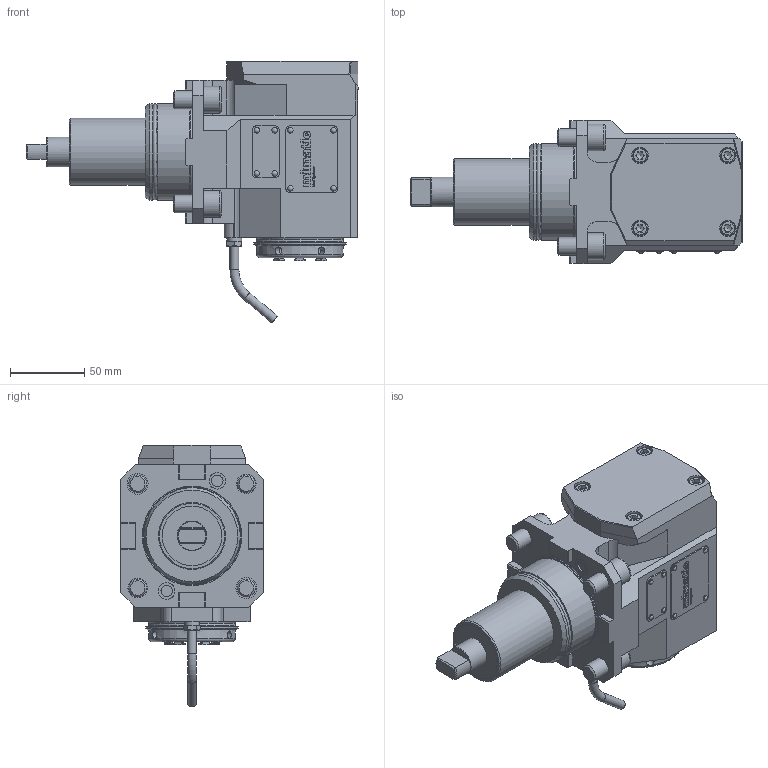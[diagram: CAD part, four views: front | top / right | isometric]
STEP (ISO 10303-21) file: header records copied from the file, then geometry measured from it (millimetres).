
FILE_DESCRIPTION(/* description */ (''),/* implementation_level */ '2;1');
FILE_NAME(/* name */ '192965',/* time_stamp */ '2020-05-25T15:59:23+02:00',/* author */ (''),/* organization */ (''),/* preprocessor_version */ 'ST-DEVELOPER v16.5',/* originating_system */ 'HiCAD 2017 2201.0 Build 268',/* authorisation */ '');
FILE_SCHEMA (('AUTOMOTIVE_DESIGN { 1 0 10303 214 1 1 1 1 }'));
Products named in the file (9): Root; Teil; GEWINDE; DIN 13-M14
Assembly tree (8 placements, depth 3):
  Root
    Teil
      GEWINDE
      GEWINDE
      GEWINDE
      GEWINDE
      GEWINDE
      DIN 13-M14
      DIN 13-M14
Bounding box: 223 x 96 x 175.85 mm (x, y, z)
Volume: 1131984.9 mm3; surface area: 110823.5 mm2
Topology: 8 solids, 16 shells, 868 faces, 2194 edges, 1426 vertices
Faces by surface type: plane 537, cylinder 216, cone 41, bspline 38, torus 28, sphere 8
Full cylindrical faces by diameter (mm): 2 x8, 2.2 x8, 4 x2, 5.1 x6, 6 x2, 6.8 x2, 7.65 x2, 8 x1, 9.853 x8, 10 x5, 11 x4, 11.01 x2, 11.1 x2, 12 x10, 13 x2, 14 x4, 18 x4, 20 x1, 23.5 x1, 27 x1, 38.4 x1, 40 x1, 40.501 x1, 45 x1, 55 x1, 58 x1, 60.8 x2, 62 x1, 64.5 x1, 64.9 x2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
Entity records: 55078 total; most frequent: CARTESIAN_POINT 12010, PRESENTATION_STYLE_ASSIGNMENT 4481, OVER_RIDING_STYLED_ITEM 4473, COLOUR_RGB 3981, DRAUGHTING_PRE_DEFINED_CURVE_FONT 3970, CURVE_STYLE 3970, ORIENTED_EDGE 3970, DIRECTION 3944
